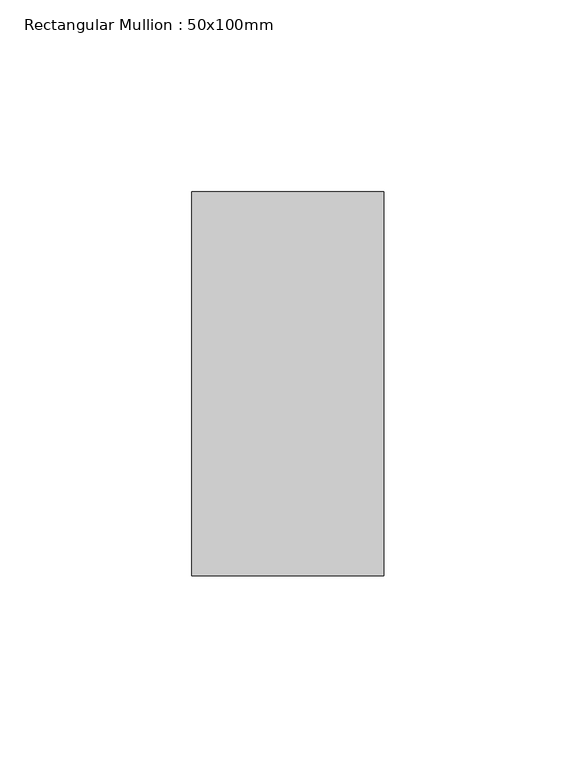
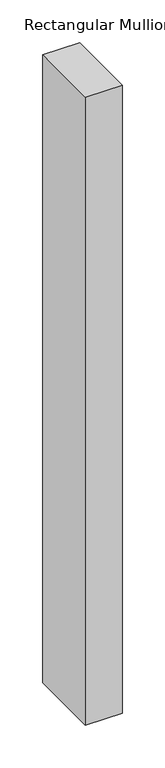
"""IFC4 building model written with IfcOpenShell, lengths in millimetres: member geometry, Rectangular Mullion : 50x100mm."""

from ifc_helpers import new_model, si_unit, frame, origin, place, context, project, spatial, polyline, outline, extrude, source, transform, mapped, element, save


def rectangular_mullion_50x100mm_d38db419(model_context):
    return source(origin(), model_context, "Body", "SweptSolid", [
        extrude(outline(polyline([(0.0, 50.0), (0.0, -50.0), (-50.0, -50.0), (-50.0, 50.0), (0.0, 50.0)])), frame((0.0, 0.0, -899.045086), z_axis=(0.0, 0.0, 1.0), x_axis=(1.0, 0.0, 0.0)), (0.0, 0.0, 1.0), 899.045086),
    ])


if __name__ == "__main__":
    model = new_model("IFC4")
    model_context = context("Model", 3, world=origin())
    ifc_project = project(units=[si_unit("LENGTHUNIT", "METRE", prefix="MILLI")], contexts=[model_context])
    site = spatial("IfcSite", under=ifc_project)
    building = spatial("IfcBuilding", under=site)
    placement = place(None, origin())
    rectangular_mullion_50x100mm_shape = rectangular_mullion_50x100mm_d38db419(model_context)
    element("IfcMember", 1, ObjectType="Rectangular Mullion : 50x100mm", at=placement, inside=building, context=model_context, shape_type="MappedRepresentation", body=[
        mapped(rectangular_mullion_50x100mm_shape, transform((0.0, 0.0, 0.0), x_axis=(1.0, 0.0, 0.0), y_axis=(0.0, 1.0, 0.0), z_axis=(0.0, 0.0, 1.0))),
    ])
    save(model, "model.ifc")
